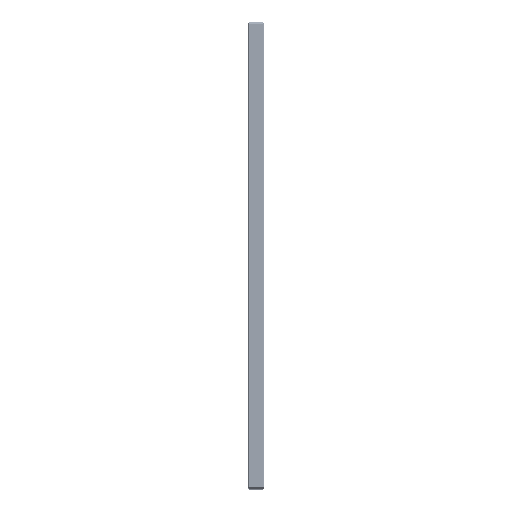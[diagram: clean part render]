
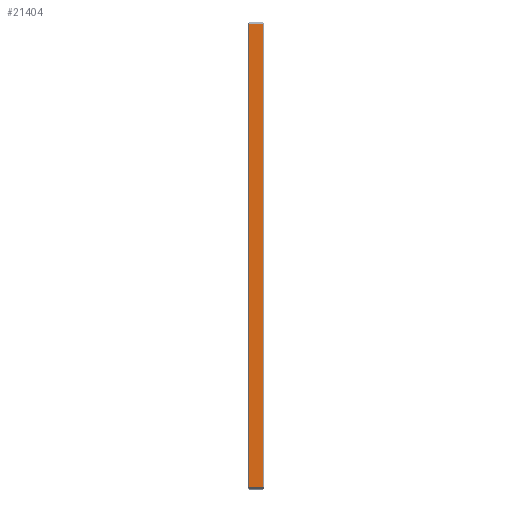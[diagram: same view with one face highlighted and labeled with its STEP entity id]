
A CAD part, top view. The second image highlights one B-rep face of the part: STEP entity #21404.
In plain terms, the highlighted planar face has unit normal (0, 0, 1).
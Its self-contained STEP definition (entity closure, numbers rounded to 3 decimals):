
#6514=FACE_OUTER_BOUND($,#9237,.T.);
#9237=EDGE_LOOP($,(#18103,#18104,#18105,#18106));
#12492=LINE($,#34505,#12532);
#12500=LINE($,#35602,#12540);
#12505=LINE($,#35612,#12545);
#12523=LINE($,#36728,#12563);
#12532=VECTOR($,#26850,13.);
#12540=VECTOR($,#27944,446.);
#12545=VECTOR($,#27951,13.);
#12563=VECTOR($,#29067,446.);
#12571=VERTEX_POINT($,#34502);
#12572=VERTEX_POINT($,#34504);
#13118=VERTEX_POINT($,#35600);
#13122=VERTEX_POINT($,#35610);
#14760=EDGE_CURVE($,#12571,#12572,#12492,.T.);
#15309=EDGE_CURVE($,#13118,#12571,#12500,.T.);
#15314=EDGE_CURVE($,#13122,#13118,#12505,.T.);
#15873=EDGE_CURVE($,#12572,#13122,#12523,.T.);
#18103=ORIENTED_EDGE($,*,*,#15309,.F.);
#18104=ORIENTED_EDGE($,*,*,#15314,.F.);
#18105=ORIENTED_EDGE($,*,*,#15873,.F.);
#18106=ORIENTED_EDGE($,*,*,#14760,.F.);
#21381=PLANE($,#24130);
#21404=ADVANCED_FACE($,(#6514),#21381,.T.);
#24130=AXIS2_PLACEMENT_3D($,#36733,#29072,#29073);
#26850=DIRECTION($,(1.,0.,0.));
#27944=DIRECTION($,(0.,1.,0.));
#27951=DIRECTION($,(-1.,0.,0.));
#29067=DIRECTION($,(0.,-1.,0.));
#29072=DIRECTION('center_axis',(0.,0.,1.));
#29073=DIRECTION('ref_axis',(0.,-1.,0.));
#34502=CARTESIAN_POINT('',(1.,448.,750.));
#34504=CARTESIAN_POINT('',(14.,448.,750.));
#34505=CARTESIAN_POINT($,(0.,448.,750.));
#35600=CARTESIAN_POINT('',(1.,2.,750.));
#35602=CARTESIAN_POINT($,(1.,337.5,750.));
#35610=CARTESIAN_POINT('',(14.,2.,750.));
#35612=CARTESIAN_POINT($,(0.,2.,750.));
#36728=CARTESIAN_POINT($,(14.,337.5,750.));
#36733=CARTESIAN_POINT('Origin',(0.,450.,750.));
